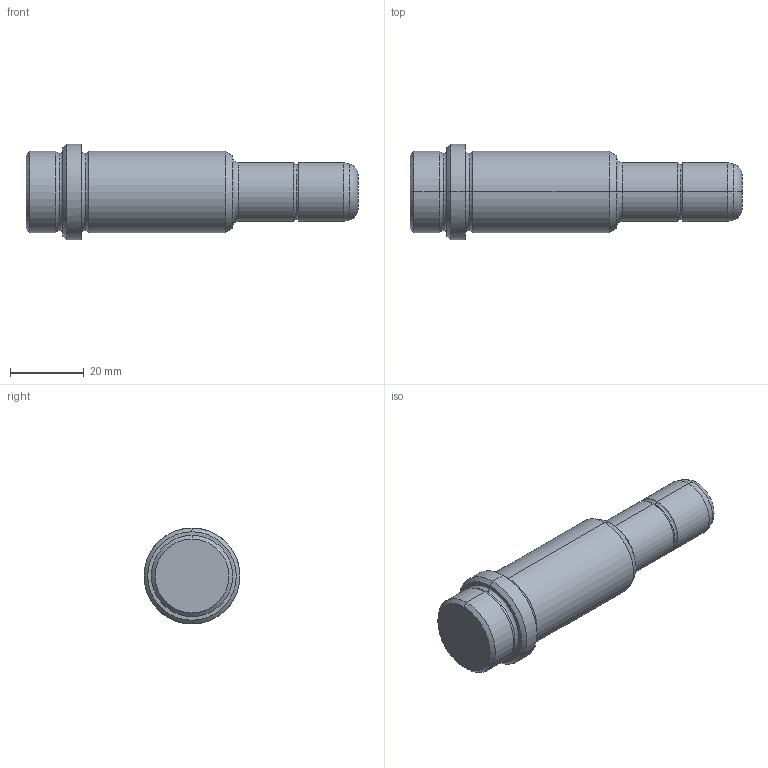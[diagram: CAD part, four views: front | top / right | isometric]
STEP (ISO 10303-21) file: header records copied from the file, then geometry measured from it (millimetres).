
FILE_DESCRIPTION(('CATIA V5 STEP Exchange'),'2;1');
FILE_NAME('C:\Users\Utente\Desktop\IO LAVORO\3D X SITO CF\X SITO\PLASTICA\357\357-16X56X90.stp','2021-08-14T09:08:15+00:00',('none'),('none'),'CATIA Version 5 Release 20 GA (IN-10)','CATIA V5 STEP AP203','none');
FILE_SCHEMA(('CONFIG_CONTROL_DESIGN'));
Length unit declared in the file: millimetre
Products named in the file (1): 357-16X56X90
Bounding box: 90 x 26 x 26 mm (x, y, z)
Volume: 28485 mm3; surface area: 6482.7 mm2
Topology: 1 solids, 1 shells, 39 faces, 112 edges, 78 vertices
Faces by surface type: torus 16, cylinder 10, cone 8, plane 5
Entity records: 1404 total; most frequent: CARTESIAN_POINT 342, ORIENTED_EDGE 224, DIRECTION 182, AXIS2_PLACEMENT_3D 126, EDGE_CURVE 112, CIRCLE 86, VERTEX_POINT 78, EDGE_LOOP 42
